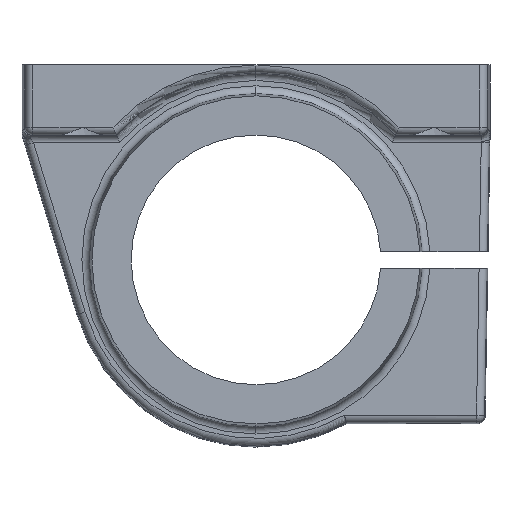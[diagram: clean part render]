
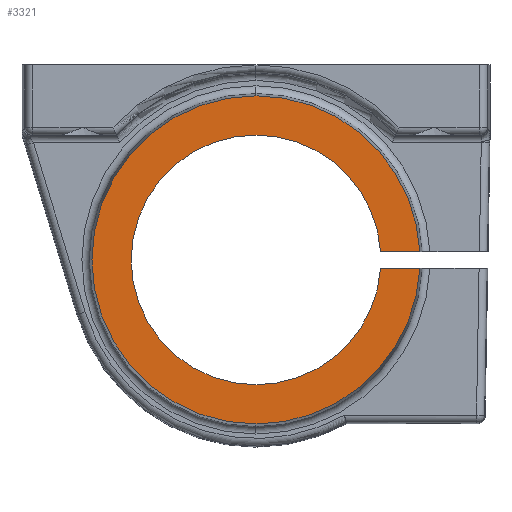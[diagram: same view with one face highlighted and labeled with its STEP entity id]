
A CAD part, front view. The second image highlights one B-rep face of the part: STEP entity #3321.
In plain terms, the highlighted planar face has unit normal (0, -1, 0).
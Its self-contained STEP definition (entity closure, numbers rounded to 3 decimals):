
#94 = DIRECTION ( 'NONE',  ( 0., 1., 0. ) ) ;
#127 = EDGE_LOOP ( 'NONE', ( #800, #4585, #3638, #4478, #4311, #842, #3967, #667 ) ) ;
#187 = AXIS2_PLACEMENT_3D ( 'NONE', #918, #3706, #2592 ) ;
#234 = DIRECTION ( 'NONE',  ( 0., 1., 0. ) ) ;
#299 = CIRCLE ( 'NONE', #2080, 16. ) ;
#310 = AXIS2_PLACEMENT_3D ( 'NONE', #4171, #591, #989 ) ;
#336 = CIRCLE ( 'NONE', #931, 21.028 ) ;
#379 = AXIS2_PLACEMENT_3D ( 'NONE', #3360, #234, #2649 ) ;
#408 = CARTESIAN_POINT ( 'NONE',  ( 15.964, -14., -20.925 ) ) ;
#432 = VECTOR ( 'NONE', #4404, 1000. ) ;
#442 = EDGE_CURVE ( 'NONE', #633, #1466, #4276, .T. ) ;
#474 = CARTESIAN_POINT ( 'NONE',  ( 0., -14., -20.925 ) ) ;
#565 = EDGE_CURVE ( 'NONE', #4036, #633, #336, .T. ) ;
#567 = CARTESIAN_POINT ( 'NONE',  ( 0., -14., -22. ) ) ;
#568 = DIRECTION ( 'NONE',  ( 0., 0., -1. ) ) ;
#591 = DIRECTION ( 'NONE',  ( 0., 1., 0. ) ) ;
#606 = CIRCLE ( 'NONE', #310, 16. ) ;
#633 = VERTEX_POINT ( 'NONE', #2884 ) ;
#667 = ORIENTED_EDGE ( 'NONE', *, *, #3705, .T. ) ;
#800 = ORIENTED_EDGE ( 'NONE', *, *, #2062, .F. ) ;
#842 = ORIENTED_EDGE ( 'NONE', *, *, #3364, .T. ) ;
#843 = AXIS2_PLACEMENT_3D ( 'NONE', #3267, #94, #2926 ) ;
#918 = CARTESIAN_POINT ( 'NONE',  ( 0., -14., -22. ) ) ;
#920 = CARTESIAN_POINT ( 'NONE',  ( 0., -14., -23.075 ) ) ;
#931 = AXIS2_PLACEMENT_3D ( 'NONE', #1287, #2811, #568 ) ;
#989 = DIRECTION ( 'NONE',  ( 0., 0., -1. ) ) ;
#1140 = CIRCLE ( 'NONE', #843, 21.028 ) ;
#1264 = DIRECTION ( 'NONE',  ( 0., -1., 0. ) ) ;
#1275 = CARTESIAN_POINT ( 'NONE',  ( 0., -14., -6. ) ) ;
#1286 = DIRECTION ( 'NONE',  ( 0., 0., -1. ) ) ;
#1287 = CARTESIAN_POINT ( 'NONE',  ( 0., -14., -22. ) ) ;
#1466 = VERTEX_POINT ( 'NONE', #2058 ) ;
#1549 = VERTEX_POINT ( 'NONE', #4177 ) ;
#1602 = VERTEX_POINT ( 'NONE', #1813 ) ;
#1617 = FACE_OUTER_BOUND ( 'NONE', #127, .T. ) ;
#1813 = CARTESIAN_POINT ( 'NONE',  ( 21.001, -14., -20.925 ) ) ;
#1899 = EDGE_CURVE ( 'NONE', #1549, #4036, #2674, .T. ) ;
#2046 = VECTOR ( 'NONE', #3391, 1000. ) ;
#2058 = CARTESIAN_POINT ( 'NONE',  ( 0., -14., -0.972 ) ) ;
#2062 = EDGE_CURVE ( 'NONE', #1602, #4519, #2170, .T. ) ;
#2080 = AXIS2_PLACEMENT_3D ( 'NONE', #2717, #4537, #3816 ) ;
#2170 = LINE ( 'NONE', #474, #432 ) ;
#2592 = DIRECTION ( 'NONE',  ( 0., 0., -1. ) ) ;
#2649 = DIRECTION ( 'NONE',  ( 0., 0., -1. ) ) ;
#2674 = LINE ( 'NONE', #920, #2046 ) ;
#2704 = CARTESIAN_POINT ( 'NONE',  ( 21.001, -14., -23.075 ) ) ;
#2717 = CARTESIAN_POINT ( 'NONE',  ( 0., -14., -22. ) ) ;
#2811 = DIRECTION ( 'NONE',  ( 0., 1., 0. ) ) ;
#2884 = CARTESIAN_POINT ( 'NONE',  ( 0., -14., -43.028 ) ) ;
#2926 = DIRECTION ( 'NONE',  ( 0., 0., -1. ) ) ;
#3038 = CIRCLE ( 'NONE', #379, 16. ) ;
#3267 = CARTESIAN_POINT ( 'NONE',  ( 0., -14., -22. ) ) ;
#3321 = ADVANCED_FACE ( 'NONE', ( #1617 ), #4470, .T. ) ;
#3360 = CARTESIAN_POINT ( 'NONE',  ( 0., -14., -22. ) ) ;
#3364 = EDGE_CURVE ( 'NONE', #1549, #4115, #299, .T. ) ;
#3391 = DIRECTION ( 'NONE',  ( 1., 0., 0. ) ) ;
#3638 = ORIENTED_EDGE ( 'NONE', *, *, #442, .F. ) ;
#3705 = EDGE_CURVE ( 'NONE', #4045, #4519, #3038, .T. ) ;
#3706 = DIRECTION ( 'NONE',  ( 0., 1., 0. ) ) ;
#3816 = DIRECTION ( 'NONE',  ( 0., 0., -1. ) ) ;
#3865 = AXIS2_PLACEMENT_3D ( 'NONE', #567, #1264, #1286 ) ;
#3967 = ORIENTED_EDGE ( 'NONE', *, *, #4343, .T. ) ;
#4036 = VERTEX_POINT ( 'NONE', #2704 ) ;
#4045 = VERTEX_POINT ( 'NONE', #1275 ) ;
#4115 = VERTEX_POINT ( 'NONE', #4298 ) ;
#4171 = CARTESIAN_POINT ( 'NONE',  ( 0., -14., -22. ) ) ;
#4177 = CARTESIAN_POINT ( 'NONE',  ( 15.964, -14., -23.075 ) ) ;
#4276 = CIRCLE ( 'NONE', #187, 21.028 ) ;
#4298 = CARTESIAN_POINT ( 'NONE',  ( 0., -14., -38. ) ) ;
#4311 = ORIENTED_EDGE ( 'NONE', *, *, #1899, .F. ) ;
#4337 = EDGE_CURVE ( 'NONE', #1466, #1602, #1140, .T. ) ;
#4343 = EDGE_CURVE ( 'NONE', #4115, #4045, #606, .T. ) ;
#4404 = DIRECTION ( 'NONE',  ( -1., 0., 0. ) ) ;
#4470 = PLANE ( 'NONE',  #3865 ) ;
#4478 = ORIENTED_EDGE ( 'NONE', *, *, #565, .F. ) ;
#4519 = VERTEX_POINT ( 'NONE', #408 ) ;
#4537 = DIRECTION ( 'NONE',  ( 0., 1., 0. ) ) ;
#4585 = ORIENTED_EDGE ( 'NONE', *, *, #4337, .F. ) ;
